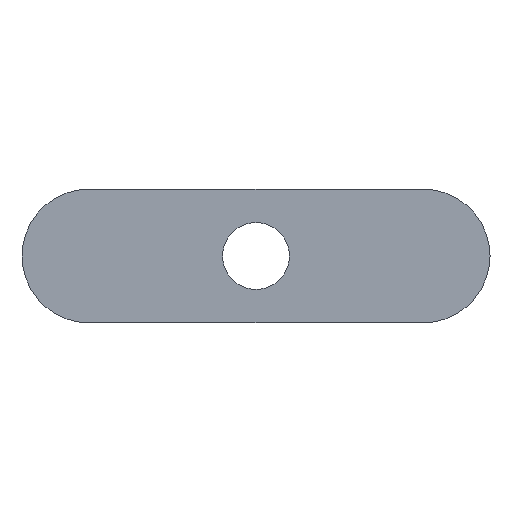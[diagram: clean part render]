
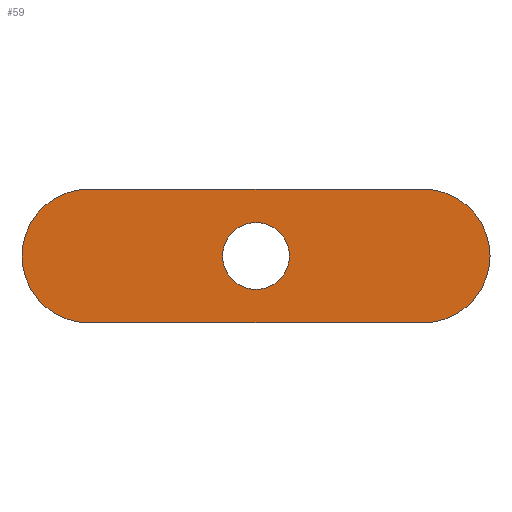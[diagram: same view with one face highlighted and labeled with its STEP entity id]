
A CAD part, top view. The second image highlights one B-rep face of the part: STEP entity #59.
In plain terms, the highlighted planar face has unit normal (0, 0, 1).
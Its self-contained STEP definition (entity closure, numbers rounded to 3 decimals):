
#21 = EDGE_CURVE('',#22,#24,#26,.T.);
#22 = VERTEX_POINT('',#23);
#23 = CARTESIAN_POINT('',(33.,47.3,33.55));
#24 = VERTEX_POINT('',#25);
#25 = CARTESIAN_POINT('',(33.,41.7,33.55));
#26 = CIRCLE('',#27,2.8);
#27 = AXIS2_PLACEMENT_3D('',#28,#29,#30);
#28 = CARTESIAN_POINT('',(33.,44.5,33.55));
#29 = DIRECTION('',(0.,0.,1.));
#30 = DIRECTION('',(1.,0.,-0.));
#59 = ADVANCED_FACE('',(#60,#95),#106,.T.);
#60 = FACE_BOUND('',#61,.T.);
#61 = EDGE_LOOP('',(#62,#63,#71,#80,#89));
#62 = ORIENTED_EDGE('',*,*,#21,.T.);
#63 = ORIENTED_EDGE('',*,*,#64,.T.);
#64 = EDGE_CURVE('',#24,#65,#67,.T.);
#65 = VERTEX_POINT('',#66);
#66 = CARTESIAN_POINT('',(47.,41.7,33.55));
#67 = LINE('',#68,#69);
#68 = CARTESIAN_POINT('',(33.,41.7,33.55));
#69 = VECTOR('',#70,1.);
#70 = DIRECTION('',(1.,0.,-0.));
#71 = ORIENTED_EDGE('',*,*,#72,.T.);
#72 = EDGE_CURVE('',#65,#73,#75,.T.);
#73 = VERTEX_POINT('',#74);
#74 = CARTESIAN_POINT('',(49.8,44.5,33.55));
#75 = CIRCLE('',#76,2.8);
#76 = AXIS2_PLACEMENT_3D('',#77,#78,#79);
#77 = CARTESIAN_POINT('',(47.,44.5,33.55));
#78 = DIRECTION('',(0.,0.,1.));
#79 = DIRECTION('',(1.,0.,-0.));
#80 = ORIENTED_EDGE('',*,*,#81,.T.);
#81 = EDGE_CURVE('',#73,#82,#84,.T.);
#82 = VERTEX_POINT('',#83);
#83 = CARTESIAN_POINT('',(47.,47.3,33.55));
#84 = CIRCLE('',#85,2.8);
#85 = AXIS2_PLACEMENT_3D('',#86,#87,#88);
#86 = CARTESIAN_POINT('',(47.,44.5,33.55));
#87 = DIRECTION('',(0.,0.,1.));
#88 = DIRECTION('',(1.,0.,-0.));
#89 = ORIENTED_EDGE('',*,*,#90,.F.);
#90 = EDGE_CURVE('',#22,#82,#91,.T.);
#91 = LINE('',#92,#93);
#92 = CARTESIAN_POINT('',(33.,47.3,33.55));
#93 = VECTOR('',#94,1.);
#94 = DIRECTION('',(1.,0.,-0.));
#95 = FACE_BOUND('',#96,.T.);
#96 = EDGE_LOOP('',(#97));
#97 = ORIENTED_EDGE('',*,*,#98,.F.);
#98 = EDGE_CURVE('',#99,#99,#101,.T.);
#99 = VERTEX_POINT('',#100);
#100 = CARTESIAN_POINT('',(41.4,44.5,33.55));
#101 = CIRCLE('',#102,1.4);
#102 = AXIS2_PLACEMENT_3D('',#103,#104,#105);
#103 = CARTESIAN_POINT('',(40.,44.5,33.55));
#104 = DIRECTION('',(0.,0.,1.));
#105 = DIRECTION('',(1.,0.,-0.));
#106 = PLANE('',#107);
#107 = AXIS2_PLACEMENT_3D('',#108,#109,#110);
#108 = CARTESIAN_POINT('',(40.081,44.5,33.55));
#109 = DIRECTION('',(0.,0.,1.));
#110 = DIRECTION('',(1.,0.,-0.));
